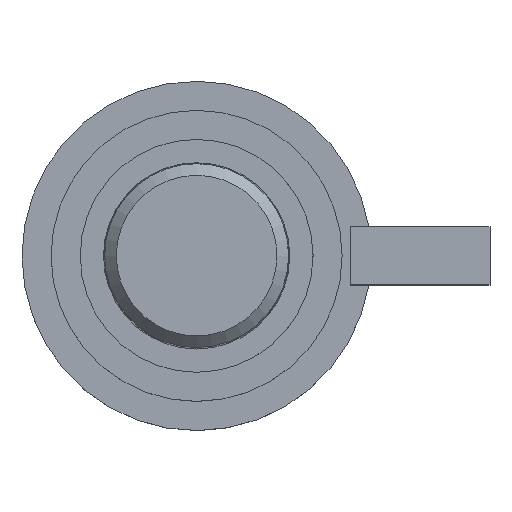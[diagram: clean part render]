
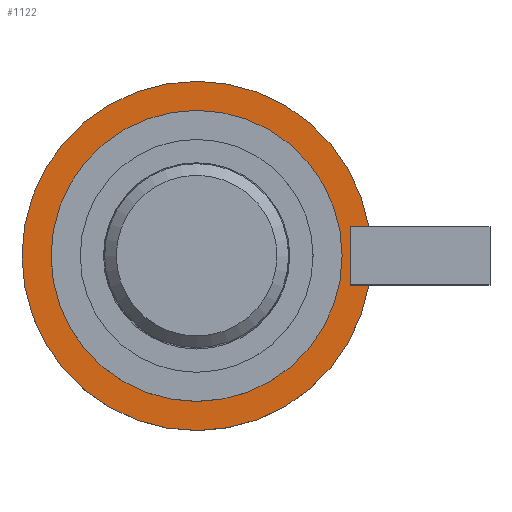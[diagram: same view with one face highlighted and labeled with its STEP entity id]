
A CAD part, top view. The second image highlights one B-rep face of the part: STEP entity #1122.
In plain terms, the highlighted planar face has unit normal (0, 0, 1).
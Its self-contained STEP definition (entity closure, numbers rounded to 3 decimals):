
#87=FACE_BOUND('',#298,.T.);
#128=CIRCLE('',#1309,7.5);
#129=CIRCLE('',#1312,5.6);
#164=PLANE('',#1311);
#223=FACE_OUTER_BOUND('',#297,.T.);
#297=EDGE_LOOP('',(#1033,#1034,#1035,#1036));
#298=EDGE_LOOP('',(#1037,#1038));
#354=LINE('',#3867,#427);
#359=LINE('',#3877,#432);
#368=LINE('',#3893,#441);
#372=LINE('',#3908,#445);
#427=VECTOR('',#1582,10.);
#432=VECTOR('',#1589,10.);
#441=VECTOR('',#1602,10.);
#445=VECTOR('',#1620,10.);
#562=VERTEX_POINT('',#3863);
#564=VERTEX_POINT('',#3866);
#568=VERTEX_POINT('',#3876);
#573=VERTEX_POINT('',#3889);
#576=VERTEX_POINT('',#3904);
#577=VERTEX_POINT('',#3906);
#710=EDGE_CURVE('',#564,#562,#354,.T.);
#715=EDGE_CURVE('',#568,#564,#359,.T.);
#724=EDGE_CURVE('',#573,#568,#368,.T.);
#728=EDGE_CURVE('',#562,#573,#128,.T.);
#731=EDGE_CURVE('',#576,#577,#372,.T.);
#732=EDGE_CURVE('',#577,#576,#129,.T.);
#1033=ORIENTED_EDGE('',*,*,#710,.T.);
#1034=ORIENTED_EDGE('',*,*,#728,.T.);
#1035=ORIENTED_EDGE('',*,*,#724,.T.);
#1036=ORIENTED_EDGE('',*,*,#715,.T.);
#1037=ORIENTED_EDGE('',*,*,#732,.T.);
#1038=ORIENTED_EDGE('',*,*,#731,.T.);
#1122=ADVANCED_FACE('',(#223,#87),#164,.T.);
#1309=AXIS2_PLACEMENT_3D('',#3902,#1614,#1615);
#1311=AXIS2_PLACEMENT_3D('',#3909,#1621,#1622);
#1312=AXIS2_PLACEMENT_3D('',#3910,#1623,#1624);
#1582=DIRECTION('',(1.,0.,0.));
#1589=DIRECTION('',(0.,1.,0.));
#1602=DIRECTION('',(-1.,0.,0.));
#1614=DIRECTION('center_axis',(0.,0.,1.));
#1615=DIRECTION('ref_axis',(1.,0.,0.));
#1620=DIRECTION('',(0.,-1.,0.));
#1621=DIRECTION('center_axis',(0.,0.,1.));
#1622=DIRECTION('ref_axis',(1.,0.,0.));
#1623=DIRECTION('center_axis',(0.,0.,-1.));
#1624=DIRECTION('ref_axis',(1.,0.,0.));
#3863=CARTESIAN_POINT('',(7.395,1.25,81.25));
#3866=CARTESIAN_POINT('',(6.6,1.25,81.25));
#3867=CARTESIAN_POINT('',(6.3,1.25,81.25));
#3876=CARTESIAN_POINT('',(6.6,-1.25,81.25));
#3877=CARTESIAN_POINT('',(6.6,0.625,81.25));
#3889=CARTESIAN_POINT('',(7.395,-1.25,81.25));
#3893=CARTESIAN_POINT('',(3.3,-1.25,81.25));
#3902=CARTESIAN_POINT('Origin',(0.,0.,81.25));
#3904=CARTESIAN_POINT('',(5.,2.522,81.25));
#3906=CARTESIAN_POINT('',(5.,-2.522,81.25));
#3908=CARTESIAN_POINT('',(5.,3.,81.25));
#3909=CARTESIAN_POINT('Origin',(0.,0.,81.25));
#3910=CARTESIAN_POINT('Origin',(0.,0.,81.25));
